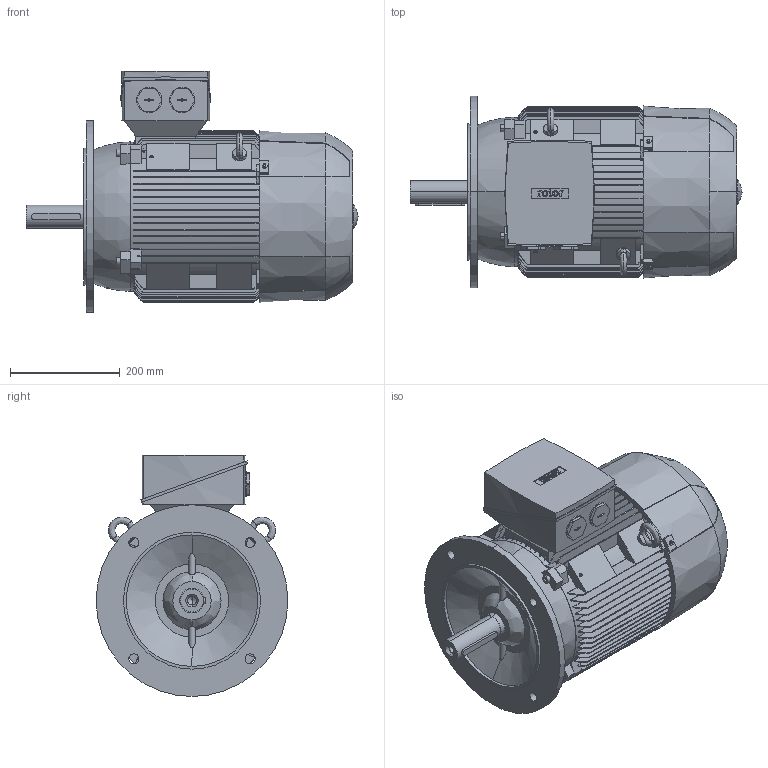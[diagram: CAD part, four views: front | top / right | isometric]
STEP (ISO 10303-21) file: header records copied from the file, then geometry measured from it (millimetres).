
FILE_DESCRIPTION (( 'STEP AP214' ), '1' );
FILE_NAME ('6RN160M08E13 IM3041_Rev.1A.STEP', '2019-03-26T13:06:37', ( '' ), ( '' ), 'SwSTEP 2.0', 'SolidWorks 2015', '' );
FILE_SCHEMA (( 'AUTOMOTIVE_DESIGN' ));
Length unit declared in the file: millimetre
Products named in the file (1): 6RN160M08E13 IM3041_Rev.1A
Bounding box: 606 x 350 x 440 mm (x, y, z)
Volume: 34502712.3 mm3; surface area: 1406929.7 mm2
Topology: 7 solids, 7 shells, 948 faces, 2609 edges, 1723 vertices
Faces by surface type: plane 552, bspline 196, cylinder 176, cone 24
Entity records: 46181 total; most frequent: CARTESIAN_POINT 14176, ORIENTED_EDGE 5210, DIRECTION 3878, EDGE_CURVE 2605, VERTEX_POINT 1723, VECTOR 1428, LINE 1428, AXIS2_PLACEMENT_3D 1225
